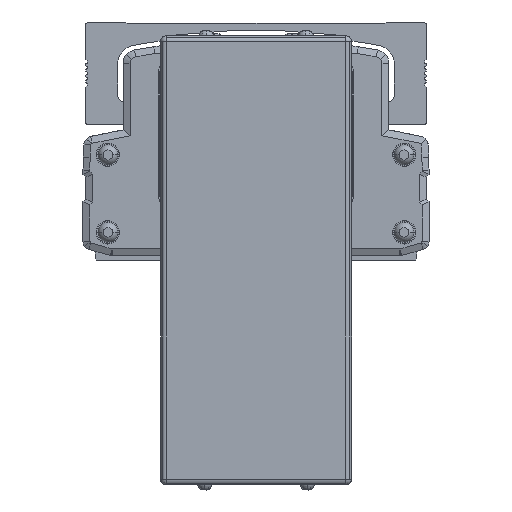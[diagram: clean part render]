
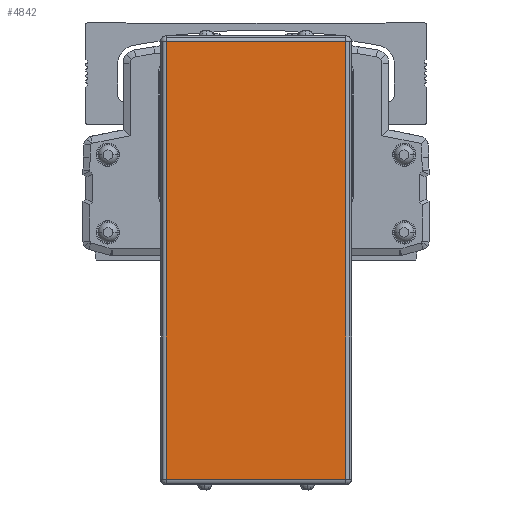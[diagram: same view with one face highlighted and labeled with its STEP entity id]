
A CAD part, front view. The second image highlights one B-rep face of the part: STEP entity #4842.
In plain terms, the highlighted planar face has unit normal (0, -1, 0).
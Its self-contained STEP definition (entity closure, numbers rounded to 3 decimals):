
#4842=ADVANCED_FACE('',(#10362),#10363,.T.);
#10362=FACE_OUTER_BOUND('',#17598,.T.);
#10363=PLANE('',#17599);
#17598=EDGE_LOOP('',(#31730,#31731,#31732,#31733));
#17599=AXIS2_PLACEMENT_3D('',#31734,#31735,#31736);
#31730=ORIENTED_EDGE('',*,*,#40982,.F.);
#31731=ORIENTED_EDGE('',*,*,#42249,.F.);
#31732=ORIENTED_EDGE('',*,*,#43551,.F.);
#31733=ORIENTED_EDGE('',*,*,#41699,.F.);
#31734=CARTESIAN_POINT('',(-299.996,-38.778,-49.1));
#31735=DIRECTION('',(0.,-1.0,0.));
#31736=DIRECTION('',(1.0,0.,0.));
#40982=EDGE_CURVE('',#49750,#49752,#49753,.T.);
#41699=EDGE_CURVE('',#49752,#50902,#50903,.T.);
#42249=EDGE_CURVE('',#49407,#49750,#51768,.T.);
#43551=EDGE_CURVE('',#50902,#49407,#53644,.T.);
#49407=VERTEX_POINT('',#61529);
#49750=VERTEX_POINT('',#62109);
#49752=VERTEX_POINT('',#62111);
#49753=LINE('',#62112,#62113);
#50902=VERTEX_POINT('',#63733);
#50903=LINE('',#63734,#63735);
#51768=LINE('',#64947,#64948);
#53644=LINE('',#67779,#67780);
#61529=CARTESIAN_POINT('',(-332.496,-38.778,30.));
#62109=CARTESIAN_POINT('',(-267.496,-38.778,30.));
#62111=CARTESIAN_POINT('',(-267.496,-38.778,-128.2));
#62112=CARTESIAN_POINT('',(-267.496,-38.778,-49.1));
#62113=VECTOR('',#75110,10.0);
#63733=CARTESIAN_POINT('',(-332.496,-38.778,-128.2));
#63734=CARTESIAN_POINT('',(-299.996,-38.778,-128.2));
#63735=VECTOR('',#76081,10.0);
#64947=CARTESIAN_POINT('',(-299.996,-38.778,30.));
#64948=VECTOR('',#76721,10.0);
#67779=CARTESIAN_POINT('',(-332.496,-38.778,-49.1));
#67780=VECTOR('',#78265,10.0);
#75110=DIRECTION('',(0.0,0.,-1.0));
#76081=DIRECTION('',(-1.0,0.,0.));
#76721=DIRECTION('',(1.0,0.,0.));
#78265=DIRECTION('',(0.0,0.,1.0));
